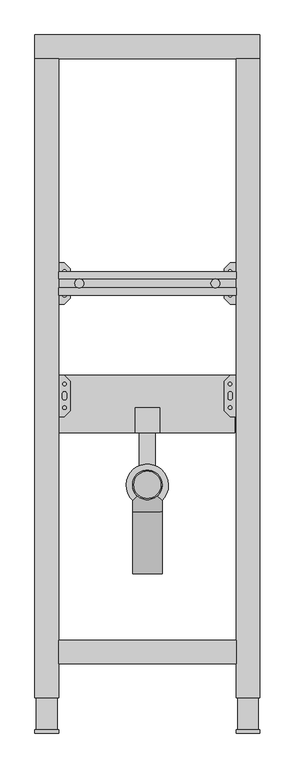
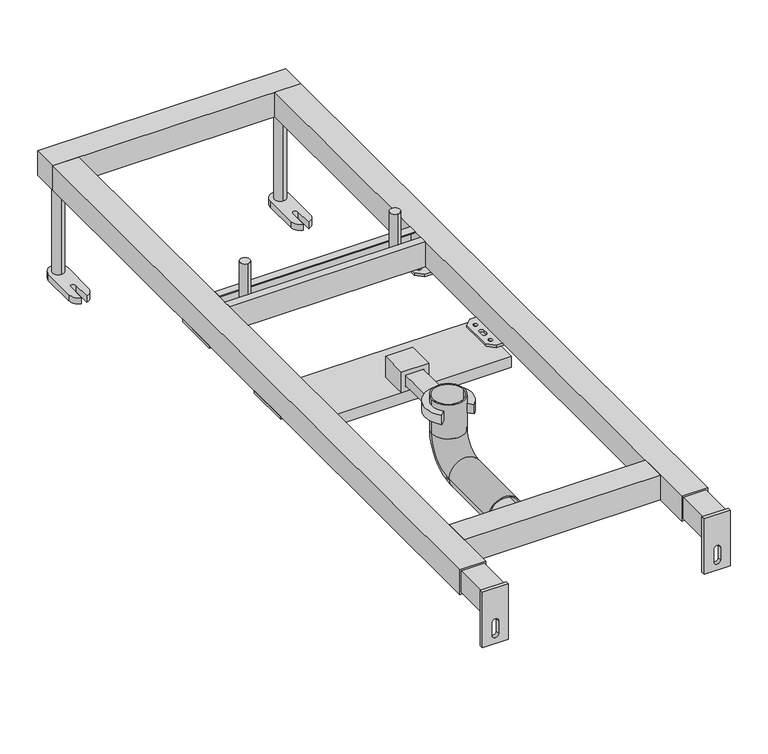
"""IFC4 building model written with IfcOpenShell, lengths in millimetres: sanitary terminal geometry, RSen_74_PF_FB_built-in element washbasin xs_wisa : xs washbasin_wisa_built in element for washbasin."""

import ifcopenshell
import ifcopenshell.guid

model = None  # the IFC model being written
_history = None  # IfcOwnerHistory: only IFC2X3 demands one
_inside = {}  # id of a spatial element -> (the spatial element, [elements in it])
_under = {}  # id of a project, library or spatial element -> (it, [spatial elements below it])
_declared = {}  # id of a project -> (the project, [libraries it declares])
_typed = {}  # id of a type object -> (the type object, [elements of that type])
_made_of = {}  # id of a material, layer set ... -> (it, [elements and type objects made of it])


def new_model(schema):
    """Start an empty IFC model of exactly this schema.

    Asked for "IFC4X3", IfcOpenShell would pick the latest addendum, in which some entities
    have other attributes; the version numbers below select the first issue.
    IFC2X3 requires an IfcOwnerHistory on every rooted entity: one is made here for all.
    """
    global model, _history
    if schema == "IFC4X3":
        model = ifcopenshell.file(schema_version=(4, 3, 0, 0))
    else:
        model = ifcopenshell.file(schema=schema)
    _inside.clear()
    _under.clear()
    _declared.clear()
    _typed.clear()
    _made_of.clear()
    _history = None
    if model.schema == "IFC2X3":
        org = make("IfcOrganization", Name="unknown")
        user = make(
            "IfcPersonAndOrganization",
            ThePerson=make("IfcPerson", FamilyName="unknown"),
            TheOrganization=org,
        )
        app = make(
            "IfcApplication",
            ApplicationDeveloper=org,
            Version="unknown",
            ApplicationFullName="unknown",
            ApplicationIdentifier="unknown",
        )
        _history = make(
            "IfcOwnerHistory",
            OwningUser=user,
            OwningApplication=app,
            ChangeAction="ADDED",
            CreationDate=0,
        )
    return model


def make(cls, **values):
    """One entity of the class cls with the attributes given. An attribute that is None is left unset."""
    return model.create_entity(
        cls, **{name: value for name, value in values.items() if value is not None}
    )


def rooted(cls, **values):
    """An entity with a GlobalId (a new one), such as an element, a storey or a relation."""
    return make(cls, GlobalId=ifcopenshell.guid.new(), OwnerHistory=_history, **values)


def si_unit(unit_type, name, prefix=None):
    """IfcSIUnit, for example si_unit("LENGTHUNIT", "METRE", prefix="MILLI")."""
    return make("IfcSIUnit", UnitType=unit_type, Prefix=prefix, Name=name)


def assignment(units):
    """IfcUnitAssignment: the units of a project."""
    return None if units is None else make("IfcUnitAssignment", Units=units)


def point(xyz):
    """IfcCartesianPoint."""
    return None if xyz is None else make("IfcCartesianPoint", Coordinates=xyz)


def direction(xyz):
    """IfcDirection."""
    return None if xyz is None else make("IfcDirection", DirectionRatios=xyz)


def frame(location, z_axis=None, x_axis=None):
    """IfcAxis2Placement3D, a coordinate frame: its origin and axes. An axis left out is left unset."""
    return make(
        "IfcAxis2Placement3D",
        Location=point(location),
        Axis=direction(z_axis),
        RefDirection=direction(x_axis),
    )


def frame_2d(location, x_axis=None):
    """IfcAxis2Placement2D, a coordinate frame in the plane: its origin and x axis."""
    return make(
        "IfcAxis2Placement2D", Location=point(location), RefDirection=direction(x_axis)
    )


def origin():
    """The frame at (0, 0, 0) with its axes left unset."""
    return frame((0.0, 0.0, 0.0))


def origin_with_axes():
    """The frame at (0, 0, 0) with the z axis (0, 0, 1) and the x axis (1, 0, 0) written out."""
    return frame((0.0, 0.0, 0.0), z_axis=(0.0, 0.0, 1.0), x_axis=(1.0, 0.0, 0.0))


def place(relative_to, where):
    """IfcLocalPlacement: puts the frame where relative to a parent placement (None: the world)."""
    return make(
        "IfcLocalPlacement", PlacementRelTo=relative_to, RelativePlacement=where
    )


def context(
    kind, dimensions, precision=None, world=None, true_north=None, identifier=None
):
    """IfcGeometricRepresentationContext, for example the 3D "Model" context."""
    return make(
        "IfcGeometricRepresentationContext",
        ContextIdentifier=identifier,
        ContextType=kind,
        CoordinateSpaceDimension=dimensions,
        Precision=precision,
        WorldCoordinateSystem=world,
        TrueNorth=true_north,
    )


def project(units=None, contexts=None):
    """IfcProject with its units and contexts."""
    return rooted(
        "IfcProject",
        Name="project",
        RepresentationContexts=contexts,
        UnitsInContext=assignment(units),
    )


def spatial(cls, under=None, at=None, **own):
    """A site, building, storey or space (cls), placed at a placement, below another one or the project."""
    s = rooted(cls, ObjectPlacement=at, **own)
    if under is not None:
        _under.setdefault(under.id(), (under, []))[1].append(s)
    return s


def polyline(points):
    """IfcPolyline through the points."""
    return make("IfcPolyline", Points=[point(p) for p in points])


def circle_curve(where, radius):
    """IfcCircle in the frame where."""
    return make("IfcCircle", Position=where, Radius=radius)


def ellipse_curve(where, semi_axis1, semi_axis2):
    """IfcEllipse in the frame where."""
    return make(
        "IfcEllipse", Position=where, SemiAxis1=semi_axis1, SemiAxis2=semi_axis2
    )


def trimmed(basis, trim1, trim2, sense, master):
    """IfcTrimmedCurve: the piece of a basis curve between two trims."""
    return make(
        "IfcTrimmedCurve",
        BasisCurve=basis,
        Trim1=trim1,
        Trim2=trim2,
        SenseAgreement=sense,
        MasterRepresentation=master,
    )


def segment(curve, same_sense, transition):
    """IfcCompositeCurveSegment."""
    return make(
        "IfcCompositeCurveSegment",
        Transition=transition,
        SameSense=same_sense,
        ParentCurve=curve,
    )


def composite_curve(segments, self_intersect=None):
    """IfcCompositeCurve: segments joined end to end."""
    return make("IfcCompositeCurve", Segments=segments, SelfIntersect=self_intersect)


def outline(outer, holes=None, kind="AREA"):
    """IfcArbitraryClosedProfileDef: a profile drawn as a closed curve; with holes, ...WithVoids."""
    if holes is None:
        return make("IfcArbitraryClosedProfileDef", ProfileType=kind, OuterCurve=outer)
    return make(
        "IfcArbitraryProfileDefWithVoids",
        ProfileType=kind,
        OuterCurve=outer,
        InnerCurves=holes,
    )


def extrude(swept, where, along, depth):
    """IfcExtrudedAreaSolid: the profile swept, set in the frame where, extruded along a direction by depth."""
    return make(
        "IfcExtrudedAreaSolid",
        SweptArea=swept,
        Position=where,
        ExtrudedDirection=direction(along),
        Depth=depth,
    )


def shape(context_of_items, identifier, shape_type, items):
    """IfcShapeRepresentation: the items that make up one representation, for example the "Body"."""
    return make(
        "IfcShapeRepresentation",
        ContextOfItems=context_of_items,
        RepresentationIdentifier=identifier,
        RepresentationType=shape_type,
        Items=items,
    )


def source(mapping_origin, context_of_items, identifier, shape_type, items):
    """IfcRepresentationMap: a shape defined once, which mapped items show again and again."""
    return make(
        "IfcRepresentationMap",
        MappingOrigin=mapping_origin,
        MappedRepresentation=shape(context_of_items, identifier, shape_type, items),
    )


def transform(
    local_origin,
    x_axis=None,
    y_axis=None,
    z_axis=None,
    scale=None,
    scale2=None,
    scale3=None,
    uniform=True,
):
    """IfcCartesianTransformationOperator3D, or its non-uniform kind. x_axis, y_axis, z_axis: its Axis1, 2, 3."""
    if uniform:
        return make(
            "IfcCartesianTransformationOperator3D",
            Axis1=direction(x_axis),
            Axis2=direction(y_axis),
            LocalOrigin=point(local_origin),
            Scale=scale,
            Axis3=direction(z_axis),
        )
    return make(
        "IfcCartesianTransformationOperator3DnonUniform",
        Axis1=direction(x_axis),
        Axis2=direction(y_axis),
        LocalOrigin=point(local_origin),
        Scale=scale,
        Axis3=direction(z_axis),
        Scale2=scale2,
        Scale3=scale3,
    )


def mapped(mapping_source, mapping_target):
    """IfcMappedItem: shows the shape of a source again, moved by a transform."""
    return make(
        "IfcMappedItem", MappingSource=mapping_source, MappingTarget=mapping_target
    )


def made_of(thing, what):
    """Note that an element or type object is made of a material, layer set ...; save() writes the relation."""
    if what is not None:
        _made_of.setdefault(what.id(), (what, []))[1].append(thing)
    return thing


def element(
    cls,
    number,
    at=None,
    inside=None,
    cuts=None,
    type_object=None,
    material=None,
    context=None,
    identifier="Body",
    shape_type=None,
    held_by="IfcProductDefinitionShape",
    body=None,
    shapes=None,
    **own,
):
    """One element of the class cls, such as IfcWall. Its Tag is "e" and its number.

    at: its placement. inside: the storey or other place that contains it. cuts: it is an
    opening in that element (IfcRelVoidsElement). A single representation is given by context,
    identifier, shape_type and body (its items); several are given by shapes. held_by: the class
    of the entity that holds the representations. save() writes the other relations.
    """
    e = rooted(cls, Tag="e%d" % number, ObjectPlacement=at, **own)
    if body is not None:
        shapes = [shape(context, identifier, shape_type, body)]
    if shapes is not None:
        e.Representation = make(held_by, Representations=shapes)
    if inside is not None:
        _inside.setdefault(inside.id(), (inside, []))[1].append(e)
    if cuts is not None:
        rooted(
            "IfcRelVoidsElement", RelatingBuildingElement=cuts, RelatedOpeningElement=e
        )
    if type_object is not None:
        _typed.setdefault(type_object.id(), (type_object, []))[1].append(e)
    return made_of(e, material)


def aggregate(whole, parts):
    """IfcRelAggregates: a whole, such as a stair, and the parts it consists of."""
    return rooted("IfcRelAggregates", RelatingObject=whole, RelatedObjects=parts)


def save(model, path):
    """Write the relations noted so far, then the file.

    IfcRelAggregates (storeys below a building ...), IfcRelContainedInSpatialStructure (elements
    in a storey), IfcRelDefinesByType, IfcRelAssociatesMaterial and IfcRelDeclares: one each for
    every whole, place, type object, material and project.
    """
    for whole, parts in _under.values():
        aggregate(whole, parts)
    for where, things in _inside.values():
        rooted(
            "IfcRelContainedInSpatialStructure",
            RelatedElements=things,
            RelatingStructure=where,
        )
    for kind, things in _typed.values():
        rooted("IfcRelDefinesByType", RelatedObjects=things, RelatingType=kind)
    for what, things in _made_of.values():
        rooted("IfcRelAssociatesMaterial", RelatedObjects=things, RelatingMaterial=what)
    for by, libraries in _declared.values():
        rooted("IfcRelDeclares", RelatingContext=by, RelatedDefinitions=libraries)
    model.write(path)


def plane_surface(at):
    """IfcPlane: the flat surface through the origin of the frame at, square to its z axis."""
    return make("IfcPlane", Position=at)


def cylinder_surface(at, radius):
    """IfcCylindricalSurface: all points at the distance radius from the z axis of the frame at."""
    return make("IfcCylindricalSurface", Position=at, Radius=radius)


def revolved_surface(curve, axis_point, axis_direction):
    """IfcSurfaceOfRevolution: the curve turned about the line through axis_point along axis_direction."""
    return make(
        "IfcSurfaceOfRevolution",
        SweptCurve=make("IfcArbitraryOpenProfileDef", ProfileType="CURVE", Curve=curve),
        AxisPosition=make("IfcAxis1Placement", Location=point(axis_point), Axis=direction(axis_direction)),
    )


def advanced_brep(points, edges, surfaces, faces):
    """IfcAdvancedBrep: a solid bounded by faces that lie on surfaces and meet in shared edges.

    An edge is (start, end): straight between two places in points (the first is 0);
    or (start, end, curve); or (start, end, curve, False) where it runs against its curve.
    A face is (place in surfaces, loops), or (place, loops, False) where it looks against
    its surface's normal. A loop lists edges by number (the first is 1), with a minus sign
    where the edge is run from its end to its start. The first loop is the outer one.
    """
    corners = [point(p) for p in points]
    vertices = [make("IfcVertexPoint", VertexGeometry=c) for c in corners]
    made = []
    for start, end, *more in edges:
        made.append(
            make(
                "IfcEdgeCurve",
                EdgeStart=vertices[start],
                EdgeEnd=vertices[end],
                EdgeGeometry=more[0] if more else make("IfcPolyline", Points=[corners[start], corners[end]]),
                SameSense=more[1] if len(more) > 1 else True,
            )
        )
    hull = []
    for where, loops, *sense in faces:
        bounds = []
        for j, loop in enumerate(loops):
            ring = [make("IfcOrientedEdge", EdgeElement=made[abs(k) - 1], Orientation=k > 0) for k in loop]
            bounds.append(
                make(
                    "IfcFaceOuterBound" if j == 0 else "IfcFaceBound",
                    Bound=make("IfcEdgeLoop", EdgeList=ring),
                    Orientation=True,
                )
            )
        hull.append(make("IfcAdvancedFace", Bounds=bounds, FaceSurface=surfaces[where], SameSense=sense[0] if sense else True))
    return make("IfcAdvancedBrep", Outer=make("IfcClosedShell", CfsFaces=hull))


def sanitary_terminal_f5f2133f(model_context):
    return source(origin(), model_context, "Body", "SolidModel", [
        extrude(outline(composite_curve([segment(polyline([(-17.8270587, 400.1688677), (-24.8992187, 393.0967077)]), True, "CONTINUOUS"), segment(trimmed(circle_curve(frame_2d((0.0, 418.75)), 35.75), [point((-24.8992187, 393.0967077))], [point((24.8992187, 393.0967077))], False, "CARTESIAN"), True, "CONTINUOUS"), segment(polyline([(24.8992187, 393.0967077), (17.8270587, 400.1688677)]), True, "CONTINUOUS"), segment(trimmed(circle_curve(frame_2d((0.0, 418.75)), 25.75), [point((17.8270587, 400.1688677))], [point((-17.8270587, 400.1688677))], True, "CARTESIAN"), True, "CONTINUOUS")], self_intersect=False)), frame((0.0, 0.0, 175.75), z_axis=(0.0, 0.0, 1.0), x_axis=(1.0, 0.0, 0.0)), (0.0, 0.0, 1.0), 15.0),
        extrude(outline(polyline([(-13.3214827, 550.0), (13.6785173, 550.0), (13.6785173, 445.8), (-13.3214827, 445.8), (-13.3214827, 550.0)])), frame((0.0, 0.0, 164.75), z_axis=(0.0, 0.0, 1.0), x_axis=(1.0, 0.0, 0.0)), (0.0, 0.0, 1.0), 16.0),
        extrude(outline(polyline([(189.5, 20.9285173), (189.5, -20.5714827), (156.0, -20.5714827), (156.0, 20.9285173), (189.5, 20.9285173)]), holes=[polyline([(182.0, 13.75), (163.5, 13.75), (163.5, -13.75), (182.0, -13.75), (182.0, 13.75)])]), frame((0.0, 508.0, 0.0), z_axis=(0.0, 1.0, 0.0), x_axis=(0.0, 0.0, 1.0)), (0.0, 0.0, 1.0), 42.0),
        extrude(outline(polyline([(148.0, 508.0), (-150.0, 508.0), (-150.0, 605.0), (148.0, 605.0), (148.0, 508.0)])), frame((0.0, 0.0, 138.0), z_axis=(0.0, 0.0, 1.0), x_axis=(1.0, 0.0, 0.0)), (0.0, 0.0, 1.0), 18.0),
        advanced_brep(
        [(-25.0, 419.5, 200.0), (25.0, 419.5, 200.0), (-23.0, 419.5, 200.0), (23.0, 419.5, 200.0), (-25.0, 419.5, 145.0), (25.0, 419.5, 145.0), (25.0, 374.5, 100.0), (-25.0, 374.5, 100.0), (-25.0, 269.5, 100.0), (25.0, 269.5, 100.0), (-23.0, 269.5, 100.0), (23.0, 269.5, 100.0), (-23.0, 419.5, 145.0), (23.0, 419.5, 145.0), (23.0, 374.5, 100.0), (-23.0, 374.5, 100.0)],
        [
            (0, 1, circle_curve(frame((0.0, 419.5, 200.0), z_axis=(0.0, 0.0, 1.0), x_axis=(1.0, 0.0, 0.0)), 25.0)),
            (1, 0, circle_curve(frame((0.0, 419.5, 200.0), z_axis=(0.0, 0.0, 1.0), x_axis=(1.0, 0.0, 0.0)), 25.0)),
            (2, 3, circle_curve(frame((0.0, 419.5, 200.0), z_axis=(0.0, 0.0, -1.0), x_axis=(1.0, 0.0, 0.0)), 23.0)),
            (3, 2, circle_curve(frame((0.0, 419.5, 200.0), z_axis=(0.0, 0.0, -1.0), x_axis=(1.0, 0.0, 0.0)), 23.0)),
            (0, 4),
            (4, 5, circle_curve(frame((0.0, 419.5, 145.0), z_axis=(0.0, 0.0, 1.0), x_axis=(1.0, 0.0, 0.0)), 25.0)),
            (5, 1),
            (5, 4, circle_curve(frame((0.0, 419.5, 145.0), z_axis=(0.0, 0.0, 1.0), x_axis=(1.0, 0.0, 0.0)), 25.0)),
            (6, 5, circle_curve(frame((25.0, 374.5, 145.0), z_axis=(1.0, 0.0, 0.0), x_axis=(0.0, 1.0, 0.0)), 45.0)),
            (4, 7, circle_curve(frame((-25.0, 374.5, 145.0), z_axis=(-1.0, 0.0, 0.0), x_axis=(0.0, 1.0, 0.0)), 45.0)),
            (7, 6, circle_curve(frame((0.0, 374.5, 100.0), z_axis=(0.0, 1.0, 0.0), x_axis=(1.0, 0.0, 0.0)), 25.0)),
            (6, 7, circle_curve(frame((0.0, 374.5, 100.0), z_axis=(0.0, 1.0, 0.0), x_axis=(1.0, 0.0, 0.0)), 25.0)),
            (8, 9, circle_curve(frame((0.0, 269.5, 100.0), z_axis=(0.0, -1.0, 0.0), x_axis=(1.0, 0.0, 0.0)), 25.0)),
            (9, 8, circle_curve(frame((0.0, 269.5, 100.0), z_axis=(0.0, -1.0, 0.0), x_axis=(1.0, 0.0, 0.0)), 25.0)),
            (10, 11, circle_curve(frame((0.0, 269.5, 100.0), z_axis=(0.0, 1.0, 0.0), x_axis=(1.0, 0.0, 0.0)), 23.0)),
            (11, 10, circle_curve(frame((0.0, 269.5, 100.0), z_axis=(0.0, 1.0, 0.0), x_axis=(1.0, 0.0, 0.0)), 23.0)),
            (7, 8),
            (9, 6),
            (2, 12),
            (12, 13, circle_curve(frame((0.0, 419.5, 145.0), z_axis=(0.0, 0.0, -1.0), x_axis=(1.0, 0.0, 0.0)), 23.0)),
            (13, 3),
            (13, 12, circle_curve(frame((0.0, 419.5, 145.0), z_axis=(0.0, 0.0, -1.0), x_axis=(1.0, 0.0, 0.0)), 23.0)),
            (14, 13, circle_curve(frame((23.0, 374.5, 145.0), z_axis=(1.0, 0.0, 0.0), x_axis=(0.0, 1.0, 0.0)), 45.0)),
            (12, 15, circle_curve(frame((-23.0, 374.5, 145.0), z_axis=(-1.0, 0.0, 0.0), x_axis=(0.0, 1.0, 0.0)), 45.0)),
            (15, 14, circle_curve(frame((0.0, 374.5, 100.0), z_axis=(0.0, -1.0, 0.0), x_axis=(1.0, 0.0, 0.0)), 23.0)),
            (14, 15, circle_curve(frame((0.0, 374.5, 100.0), z_axis=(0.0, -1.0, 0.0), x_axis=(1.0, 0.0, 0.0)), 23.0)),
            (15, 10),
            (11, 14),
        ],
        [
            plane_surface(frame((0.0, 419.5, 200.0), z_axis=(0.0, 0.0, 1.0), x_axis=(1.0, 0.0, 0.0))),
            cylinder_surface(frame((0.0, 419.5, 200.0), z_axis=(0.0, 0.0, 1.0), x_axis=(1.0, 0.0, 0.0)), 25.0),
            revolved_surface(trimmed(ellipse_curve(frame((0.0, 419.5, 145.0), z_axis=(0.0, 0.0, 1.0), x_axis=(1.0, 0.0, 0.0)), 25.0, 25.0), [point((-25.0, 419.5, 145.0))], [point((25.0, 419.5, 145.0))], True, "CARTESIAN"), (0.0, 374.5, 145.0), (-1.0, 0.0, 0.0)),
            revolved_surface(trimmed(ellipse_curve(frame((0.0, 419.5, 145.0), z_axis=(0.0, 0.0, 1.0), x_axis=(1.0, 0.0, 0.0)), 25.0, 25.0), [point((25.0, 419.5, 145.0))], [point((-25.0, 419.5, 145.0))], True, "CARTESIAN"), (0.0, 374.5, 145.0), (-1.0, 0.0, 0.0)),
            plane_surface(frame((0.0, 269.5, 100.0), z_axis=(0.0, -1.0, 0.0), x_axis=(1.0, 0.0, 0.0))),
            cylinder_surface(frame((0.0, 374.5, 100.0), z_axis=(0.0, 1.0, 0.0), x_axis=(1.0, 0.0, 0.0)), 25.0),
            revolved_surface(polyline([(23.0, 419.5, 145.0), (23.0, 419.5, 200.0)]), (0.0, 419.5, 200.0), (0.0, 0.0, -1.0)),
            revolved_surface(trimmed(ellipse_curve(frame((0.0, 419.5, 145.0), z_axis=(0.0, 0.0, -1.0), x_axis=(1.0, 0.0, 0.0)), 23.0, 23.0), [point((-23.0, 419.5, 145.0))], [point((23.0, 419.5, 145.0))], True, "CARTESIAN"), (0.0, 374.5, 145.0), (-1.0, 0.0, 0.0)),
            revolved_surface(trimmed(ellipse_curve(frame((0.0, 419.5, 145.0), z_axis=(0.0, 0.0, -1.0), x_axis=(1.0, 0.0, 0.0)), 23.0, 23.0), [point((23.0, 419.5, 145.0))], [point((-23.0, 419.5, 145.0))], True, "CARTESIAN"), (0.0, 374.5, 145.0), (-1.0, 0.0, 0.0)),
            revolved_surface(polyline([(23.0, 269.5, 100.0), (23.0, 374.5, 100.0)]), (0.0, 374.5, 100.0), (0.0, -1.0, 0.0)),
        ],
        [
            (0, [[1, 2], [3, 4]]),
            (1, [[-1, 5, 6, 7]]),
            (1, [[-2, -7, 8, -5]]),
            (2, [[9, -6, 10, 11]]),
            (3, [[-10, -8, -9, 12]]),
            (4, [[13, 14], [15, 16]]),
            (5, [[-11, 17, -14, 18]]),
            (5, [[-12, -18, -13, -17]]),
            (6, [[-3, 19, 20, 21]]),
            (6, [[-4, -21, 22, -19]]),
            (7, [[23, -20, 24, 25]]),
            (8, [[-24, -22, -23, 26]]),
            (9, [[-25, 27, -16, 28]]),
            (9, [[-26, -28, -15, -27]]),
        ],
    ),
        extrude(outline(composite_curve([segment(trimmed(circle_curve(frame_2d((-115.0, 760.0)), 7.5154833), [point((-115.0, 767.5154833))], [point((-115.0, 752.4845167))], False, "CARTESIAN"), True, "CONTINUOUS"), segment(trimmed(circle_curve(frame_2d((-115.0, 760.0)), 7.5154833), [point((-115.0, 752.4845167))], [point((-115.0, 767.5154833))], False, "CARTESIAN"), True, "CONTINUOUS")], self_intersect=False)), frame((0.0, 0.0, 180.0), z_axis=(0.0, 0.0, 1.0), x_axis=(1.0, 0.0, 0.0)), (0.0, 0.0, 1.0), 70.0),
        extrude(outline(composite_curve([segment(trimmed(circle_curve(frame_2d((115.0, 760.0)), 7.5154833), [point((115.0, 767.5154833))], [point((115.0, 752.4845167))], False, "CARTESIAN"), True, "CONTINUOUS"), segment(trimmed(circle_curve(frame_2d((115.0, 760.0)), 7.5154833), [point((115.0, 752.4845167))], [point((115.0, 767.5154833))], False, "CARTESIAN"), True, "CONTINUOUS")], self_intersect=False)), frame((0.0, 0.0, 180.0), z_axis=(0.0, 0.0, 1.0), x_axis=(1.0, 0.0, 0.0)), (0.0, 0.0, 1.0), 70.0),
        extrude(outline(polyline([(740.0, 200.0), (752.4845167, 200.0), (752.4845167, 198.5), (741.5, 198.5), (741.5, 161.5), (778.5, 161.5), (778.5, 198.5), (767.5154833, 198.5), (767.5154833, 200.0), (780.0, 200.0), (780.0, 160.0), (740.0, 160.0), (740.0, 200.0)])), frame((-150.0, 0.0, 0.0), z_axis=(1.0, 0.0, 0.0), x_axis=(0.0, 1.0, 0.0)), (0.0, 0.0, 1.0), 300.0),
        extrude(outline(polyline([(140.0, 725.0), (130.0, 735.0), (130.0, 785.0), (140.0, 795.0), (190.0, 795.0), (190.0, 725.0), (140.0, 725.0)]), holes=[composite_curve([segment(trimmed(circle_curve(frame_2d((175.0, 760.0)), 4.5), [point((175.0, 755.5))], [point((175.0, 764.5))], True, "CARTESIAN"), True, "CONTINUOUS"), segment(trimmed(circle_curve(frame_2d((175.0, 760.0)), 4.5), [point((175.0, 764.5))], [point((175.0, 755.5))], True, "CARTESIAN"), True, "CONTINUOUS")], self_intersect=False), composite_curve([segment(trimmed(circle_curve(frame_2d((175.0, 780.0)), 4.5), [point((175.0, 775.5))], [point((175.0, 784.5))], True, "CARTESIAN"), True, "CONTINUOUS"), segment(trimmed(circle_curve(frame_2d((175.0, 780.0)), 4.5), [point((175.0, 784.5))], [point((175.0, 775.5))], True, "CARTESIAN"), True, "CONTINUOUS")], self_intersect=False), composite_curve([segment(trimmed(circle_curve(frame_2d((175.0, 740.0)), 4.5), [point((175.0, 735.5))], [point((175.0, 744.5))], True, "CARTESIAN"), True, "CONTINUOUS"), segment(trimmed(circle_curve(frame_2d((175.0, 740.0)), 4.5), [point((175.0, 744.5))], [point((175.0, 735.5))], True, "CARTESIAN"), True, "CONTINUOUS")], self_intersect=False), composite_curve([segment(trimmed(circle_curve(frame_2d((140.0, 780.0)), 2.9795218), [point((140.0, 777.0204782))], [point((140.0, 782.9795218))], True, "CARTESIAN"), True, "CONTINUOUS"), segment(trimmed(circle_curve(frame_2d((140.0, 780.0)), 2.9795218), [point((140.0, 782.9795218))], [point((140.0, 777.0204782))], True, "CARTESIAN"), True, "CONTINUOUS")], self_intersect=False), composite_curve([segment(trimmed(circle_curve(frame_2d((140.0, 740.0)), 2.9795218), [point((140.0, 737.0204782))], [point((140.0, 742.9795218))], True, "CARTESIAN"), True, "CONTINUOUS"), segment(trimmed(circle_curve(frame_2d((140.0, 740.0)), 2.9795218), [point((140.0, 742.9795218))], [point((140.0, 737.0204782))], True, "CARTESIAN"), True, "CONTINUOUS")], self_intersect=False), composite_curve([segment(trimmed(circle_curve(frame_2d((140.0, 763.5)), 3.5), [point((143.5, 763.5))], [point((136.5, 763.5))], True, "CARTESIAN"), True, "CONTINUOUS"), segment(polyline([(136.5, 763.5), (136.5, 756.5)]), True, "CONTINUOUS"), segment(trimmed(circle_curve(frame_2d((140.0, 756.5)), 3.5), [point((136.5, 756.5))], [point((143.5, 756.5))], True, "CARTESIAN"), True, "CONTINUOUS"), segment(polyline([(143.5, 756.5), (143.5, 763.5)]), True, "CONTINUOUS")], self_intersect=False)]), frame((0.0, 0.0, 156.0), z_axis=(0.0, 0.0, 1.0), x_axis=(1.0, 0.0, 0.0)), (0.0, 0.0, 1.0), 4.0),
        extrude(outline(polyline([(-140.0, 725.0), (-190.0, 725.0), (-190.0, 795.0), (-140.0, 795.0), (-130.0, 785.0), (-130.0, 735.0), (-140.0, 725.0)]), holes=[composite_curve([segment(trimmed(circle_curve(frame_2d((-175.0, 760.0)), 4.5), [point((-175.0, 755.5))], [point((-175.0, 764.5))], True, "CARTESIAN"), True, "CONTINUOUS"), segment(trimmed(circle_curve(frame_2d((-175.0, 760.0)), 4.5), [point((-175.0, 764.5))], [point((-175.0, 755.5))], True, "CARTESIAN"), True, "CONTINUOUS")], self_intersect=False), composite_curve([segment(trimmed(circle_curve(frame_2d((-175.0, 780.0)), 4.5), [point((-175.0, 775.5))], [point((-175.0, 784.5))], True, "CARTESIAN"), True, "CONTINUOUS"), segment(trimmed(circle_curve(frame_2d((-175.0, 780.0)), 4.5), [point((-175.0, 784.5))], [point((-175.0, 775.5))], True, "CARTESIAN"), True, "CONTINUOUS")], self_intersect=False), composite_curve([segment(trimmed(circle_curve(frame_2d((-175.0, 740.0)), 4.5), [point((-175.0, 735.5))], [point((-175.0, 744.5))], True, "CARTESIAN"), True, "CONTINUOUS"), segment(trimmed(circle_curve(frame_2d((-175.0, 740.0)), 4.5), [point((-175.0, 744.5))], [point((-175.0, 735.5))], True, "CARTESIAN"), True, "CONTINUOUS")], self_intersect=False), composite_curve([segment(trimmed(circle_curve(frame_2d((-140.0, 780.0)), 2.9795218), [point((-140.0, 777.0204782))], [point((-140.0, 782.9795218))], True, "CARTESIAN"), True, "CONTINUOUS"), segment(trimmed(circle_curve(frame_2d((-140.0, 780.0)), 2.9795218), [point((-140.0, 782.9795218))], [point((-140.0, 777.0204782))], True, "CARTESIAN"), True, "CONTINUOUS")], self_intersect=False), composite_curve([segment(trimmed(circle_curve(frame_2d((-140.0, 740.0)), 2.9795218), [point((-140.0, 737.0204782))], [point((-140.0, 742.9795218))], True, "CARTESIAN"), True, "CONTINUOUS"), segment(trimmed(circle_curve(frame_2d((-140.0, 740.0)), 2.9795218), [point((-140.0, 742.9795218))], [point((-140.0, 737.0204782))], True, "CARTESIAN"), True, "CONTINUOUS")], self_intersect=False), composite_curve([segment(polyline([(-143.5, 763.5), (-143.5, 756.5)]), True, "CONTINUOUS"), segment(trimmed(circle_curve(frame_2d((-140.0, 756.5)), 3.5), [point((-143.5, 756.5))], [point((-136.5, 756.5))], True, "CARTESIAN"), True, "CONTINUOUS"), segment(polyline([(-136.5, 756.5), (-136.5, 763.5)]), True, "CONTINUOUS"), segment(trimmed(circle_curve(frame_2d((-140.0, 763.5)), 3.5), [point((-136.5, 763.5))], [point((-143.5, 763.5))], True, "CARTESIAN"), True, "CONTINUOUS")], self_intersect=False)]), frame((0.0, 0.0, 156.0), z_axis=(0.0, 0.0, 1.0), x_axis=(1.0, 0.0, 0.0)), (0.0, 0.0, 1.0), 4.0),
        extrude(outline(polyline([(140.0, 535.0), (130.0, 545.0), (130.0, 595.0), (140.0, 605.0), (190.0, 605.0), (190.0, 535.0), (140.0, 535.0)]), holes=[composite_curve([segment(trimmed(circle_curve(frame_2d((175.0, 570.0)), 4.5), [point((175.0, 565.5))], [point((175.0, 574.5))], True, "CARTESIAN"), True, "CONTINUOUS"), segment(trimmed(circle_curve(frame_2d((175.0, 570.0)), 4.5), [point((175.0, 574.5))], [point((175.0, 565.5))], True, "CARTESIAN"), True, "CONTINUOUS")], self_intersect=False), composite_curve([segment(trimmed(circle_curve(frame_2d((175.0, 590.0)), 4.5), [point((175.0, 585.5))], [point((175.0, 594.5))], True, "CARTESIAN"), True, "CONTINUOUS"), segment(trimmed(circle_curve(frame_2d((175.0, 590.0)), 4.5), [point((175.0, 594.5))], [point((175.0, 585.5))], True, "CARTESIAN"), True, "CONTINUOUS")], self_intersect=False), composite_curve([segment(trimmed(circle_curve(frame_2d((175.0, 550.0)), 4.5), [point((175.0, 545.5))], [point((175.0, 554.5))], True, "CARTESIAN"), True, "CONTINUOUS"), segment(trimmed(circle_curve(frame_2d((175.0, 550.0)), 4.5), [point((175.0, 554.5))], [point((175.0, 545.5))], True, "CARTESIAN"), True, "CONTINUOUS")], self_intersect=False), composite_curve([segment(trimmed(circle_curve(frame_2d((140.0, 590.0)), 2.9795218), [point((140.0, 587.0204782))], [point((140.0, 592.9795218))], True, "CARTESIAN"), True, "CONTINUOUS"), segment(trimmed(circle_curve(frame_2d((140.0, 590.0)), 2.9795218), [point((140.0, 592.9795218))], [point((140.0, 587.0204782))], True, "CARTESIAN"), True, "CONTINUOUS")], self_intersect=False), composite_curve([segment(trimmed(circle_curve(frame_2d((140.0, 550.0)), 2.9795218), [point((140.0, 547.0204782))], [point((140.0, 552.9795218))], True, "CARTESIAN"), True, "CONTINUOUS"), segment(trimmed(circle_curve(frame_2d((140.0, 550.0)), 2.9795218), [point((140.0, 552.9795218))], [point((140.0, 547.0204782))], True, "CARTESIAN"), True, "CONTINUOUS")], self_intersect=False), composite_curve([segment(trimmed(circle_curve(frame_2d((140.0, 573.5)), 3.5), [point((143.5, 573.5))], [point((136.5, 573.5))], True, "CARTESIAN"), True, "CONTINUOUS"), segment(polyline([(136.5, 573.5), (136.5, 566.5)]), True, "CONTINUOUS"), segment(trimmed(circle_curve(frame_2d((140.0, 566.5)), 3.5), [point((136.5, 566.5))], [point((143.5, 566.5))], True, "CARTESIAN"), True, "CONTINUOUS"), segment(polyline([(143.5, 566.5), (143.5, 573.5)]), True, "CONTINUOUS")], self_intersect=False)]), frame((0.0, 0.0, 156.0), z_axis=(0.0, 0.0, 1.0), x_axis=(1.0, 0.0, 0.0)), (0.0, 0.0, 1.0), 4.0),
        extrude(outline(polyline([(-140.0, 535.0), (-190.0, 535.0), (-190.0, 605.0), (-140.0, 605.0), (-130.0, 595.0), (-130.0, 545.0), (-140.0, 535.0)]), holes=[composite_curve([segment(trimmed(circle_curve(frame_2d((-175.0, 570.0)), 4.5), [point((-175.0, 565.5))], [point((-175.0, 574.5))], True, "CARTESIAN"), True, "CONTINUOUS"), segment(trimmed(circle_curve(frame_2d((-175.0, 570.0)), 4.5), [point((-175.0, 574.5))], [point((-175.0, 565.5))], True, "CARTESIAN"), True, "CONTINUOUS")], self_intersect=False), composite_curve([segment(trimmed(circle_curve(frame_2d((-175.0, 590.0)), 4.5), [point((-175.0, 585.5))], [point((-175.0, 594.5))], True, "CARTESIAN"), True, "CONTINUOUS"), segment(trimmed(circle_curve(frame_2d((-175.0, 590.0)), 4.5), [point((-175.0, 594.5))], [point((-175.0, 585.5))], True, "CARTESIAN"), True, "CONTINUOUS")], self_intersect=False), composite_curve([segment(trimmed(circle_curve(frame_2d((-175.0, 550.0)), 4.5), [point((-175.0, 545.5))], [point((-175.0, 554.5))], True, "CARTESIAN"), True, "CONTINUOUS"), segment(trimmed(circle_curve(frame_2d((-175.0, 550.0)), 4.5), [point((-175.0, 554.5))], [point((-175.0, 545.5))], True, "CARTESIAN"), True, "CONTINUOUS")], self_intersect=False), composite_curve([segment(trimmed(circle_curve(frame_2d((-140.0, 590.0)), 2.9795218), [point((-140.0, 587.0204782))], [point((-140.0, 592.9795218))], True, "CARTESIAN"), True, "CONTINUOUS"), segment(trimmed(circle_curve(frame_2d((-140.0, 590.0)), 2.9795218), [point((-140.0, 592.9795218))], [point((-140.0, 587.0204782))], True, "CARTESIAN"), True, "CONTINUOUS")], self_intersect=False), composite_curve([segment(trimmed(circle_curve(frame_2d((-140.0, 550.0)), 2.9795218), [point((-140.0, 547.0204782))], [point((-140.0, 552.9795218))], True, "CARTESIAN"), True, "CONTINUOUS"), segment(trimmed(circle_curve(frame_2d((-140.0, 550.0)), 2.9795218), [point((-140.0, 552.9795218))], [point((-140.0, 547.0204782))], True, "CARTESIAN"), True, "CONTINUOUS")], self_intersect=False), composite_curve([segment(polyline([(-143.5, 573.5), (-143.5, 566.5)]), True, "CONTINUOUS"), segment(trimmed(circle_curve(frame_2d((-140.0, 566.5)), 3.5), [point((-143.5, 566.5))], [point((-136.5, 566.5))], True, "CARTESIAN"), True, "CONTINUOUS"), segment(polyline([(-136.5, 566.5), (-136.5, 573.5)]), True, "CONTINUOUS"), segment(trimmed(circle_curve(frame_2d((-140.0, 573.5)), 3.5), [point((-136.5, 573.5))], [point((-143.5, 573.5))], True, "CARTESIAN"), True, "CONTINUOUS")], self_intersect=False)]), frame((0.0, 0.0, 156.0), z_axis=(0.0, 0.0, 1.0), x_axis=(1.0, 0.0, 0.0)), (0.0, 0.0, 1.0), 4.0),
        extrude(outline(composite_curve([segment(trimmed(circle_curve(frame_2d((-170.0, 1160.0)), 8.75), [point((-170.0, 1151.25))], [point((-170.0, 1168.75))], False, "CARTESIAN"), True, "CONTINUOUS"), segment(trimmed(circle_curve(frame_2d((-170.0, 1160.0)), 8.75), [point((-170.0, 1168.75))], [point((-170.0, 1151.25))], False, "CARTESIAN"), True, "CONTINUOUS")], self_intersect=False)), frame((0.0, 0.0, 10.0), z_axis=(0.0, 0.0, 1.0), x_axis=(1.0, 0.0, 0.0)), (0.0, 0.0, 1.0), 150.0),
        extrude(outline(composite_curve([segment(trimmed(circle_curve(frame_2d((170.0, 1160.0)), 8.75), [point((170.0, 1151.25))], [point((170.0, 1168.75))], False, "CARTESIAN"), True, "CONTINUOUS"), segment(trimmed(circle_curve(frame_2d((170.0, 1160.0)), 8.75), [point((170.0, 1168.75))], [point((170.0, 1151.25))], False, "CARTESIAN"), True, "CONTINUOUS")], self_intersect=False)), frame((0.0, 0.0, 10.0), z_axis=(0.0, 0.0, 1.0), x_axis=(1.0, 0.0, 0.0)), (0.0, 0.0, 1.0), 150.0),
        extrude(outline(composite_curve([segment(trimmed(circle_curve(frame_2d((-170.0, 1160.0)), 15.0), [point((-185.0, 1160.0))], [point((-155.0, 1160.0))], False, "CARTESIAN"), True, "CONTINUOUS"), segment(polyline([(-155.0, 1160.0), (-155.0, 1106.0)]), True, "CONTINUOUS"), segment(trimmed(circle_curve(frame_2d((-170.0, 1106.0)), 15.0), [point((-155.0, 1106.0))], [point((-166.0, 1091.5431677))], False, "CARTESIAN"), True, "CONTINUOUS"), segment(polyline([(-166.0, 1091.5431677), (-166.0, 1120.4568323)]), True, "CONTINUOUS"), segment(trimmed(circle_curve(frame_2d((-170.0, 1120.4568323)), 4.0), [point((-166.0, 1120.4568323))], [point((-174.0, 1120.4568323))], True, "CARTESIAN"), True, "CONTINUOUS"), segment(polyline([(-174.0, 1120.4568323), (-174.0, 1091.5431677)]), True, "CONTINUOUS"), segment(trimmed(circle_curve(frame_2d((-170.0, 1106.0)), 15.0), [point((-174.0, 1091.5431677))], [point((-185.0, 1106.0))], False, "CARTESIAN"), True, "CONTINUOUS"), segment(polyline([(-185.0, 1106.0), (-185.0, 1160.0)]), True, "CONTINUOUS")], self_intersect=False)), origin_with_axes(), (0.0, 0.0, 1.0), 10.0),
        extrude(outline(composite_curve([segment(polyline([(185.0, 1160.0), (185.0, 1106.0)]), True, "CONTINUOUS"), segment(trimmed(circle_curve(frame_2d((170.0, 1106.0)), 15.0), [point((185.0, 1106.0))], [point((174.0, 1091.5431677))], False, "CARTESIAN"), True, "CONTINUOUS"), segment(polyline([(174.0, 1091.5431677), (174.0, 1120.4568323)]), True, "CONTINUOUS"), segment(trimmed(circle_curve(frame_2d((170.0, 1120.4568323)), 4.0), [point((174.0, 1120.4568323))], [point((166.0, 1120.4568323))], True, "CARTESIAN"), True, "CONTINUOUS"), segment(polyline([(166.0, 1120.4568323), (166.0, 1091.5431677)]), True, "CONTINUOUS"), segment(trimmed(circle_curve(frame_2d((170.0, 1106.0)), 15.0), [point((166.0, 1091.5431677))], [point((155.0, 1106.0))], False, "CARTESIAN"), True, "CONTINUOUS"), segment(polyline([(155.0, 1106.0), (155.0, 1160.0)]), True, "CONTINUOUS"), segment(trimmed(circle_curve(frame_2d((170.0, 1160.0)), 15.0), [point((155.0, 1160.0))], [point((185.0, 1160.0))], False, "CARTESIAN"), True, "CONTINUOUS")], self_intersect=False)), origin_with_axes(), (0.0, 0.0, 1.0), 10.0),
        extrude(outline(polyline([(-187.5, 549.0), (-152.5, 549.0), (-152.5, 6.0), (-187.5, 6.0), (-187.5, 549.0)])), frame((0.0, 0.0, 162.5), z_axis=(0.0, 0.0, 1.0), x_axis=(1.0, 0.0, 0.0)), (0.0, 0.0, 1.0), 35.0),
        extrude(outline(polyline([(152.4841074, 549.0), (187.4841074, 549.0), (187.4841074, 6.0), (152.4841074, 6.0), (152.4841074, 549.0)])), frame((0.0, 0.0, 162.5), z_axis=(0.0, 0.0, 1.0), x_axis=(1.0, 0.0, 0.0)), (0.0, 0.0, 1.0), 35.0),
        extrude(outline(polyline([(200.0, 190.0), (200.0, 150.0), (110.0, 150.0), (110.0, 190.0), (200.0, 190.0)]), holes=[composite_curve([segment(trimmed(circle_curve(frame_2d((145.0, 170.0)), 5.0), [point((145.0, 165.0))], [point((145.0, 175.0))], True, "CARTESIAN"), True, "CONTINUOUS"), segment(polyline([(145.0, 175.0), (125.0, 175.0)]), True, "CONTINUOUS"), segment(trimmed(circle_curve(frame_2d((125.0, 170.0)), 5.0), [point((125.0, 175.0))], [point((125.0, 165.0))], True, "CARTESIAN"), True, "CONTINUOUS"), segment(polyline([(125.0, 165.0), (145.0, 165.0)]), True, "CONTINUOUS")], self_intersect=False)]), frame((0.0, 0.0, 0.0), z_axis=(0.0, 1.0, 0.0), x_axis=(0.0, 0.0, 1.0)), (0.0, 0.0, 1.0), 6.0),
        extrude(outline(polyline([(200.0, -150.0), (200.0, -190.0), (110.0, -190.0), (110.0, -150.0), (200.0, -150.0)]), holes=[composite_curve([segment(trimmed(circle_curve(frame_2d((145.0, -170.0)), 5.0), [point((145.0, -175.0))], [point((145.0, -165.0))], True, "CARTESIAN"), True, "CONTINUOUS"), segment(polyline([(145.0, -165.0), (125.0, -165.0)]), True, "CONTINUOUS"), segment(trimmed(circle_curve(frame_2d((125.0, -170.0)), 5.0), [point((125.0, -165.0))], [point((125.0, -175.0))], True, "CARTESIAN"), True, "CONTINUOUS"), segment(polyline([(125.0, -175.0), (145.0, -175.0)]), True, "CONTINUOUS")], self_intersect=False)]), frame((0.0, 0.0, 0.0), z_axis=(0.0, 1.0, 0.0), x_axis=(0.0, 0.0, 1.0)), (0.0, 0.0, 1.0), 6.0),
        extrude(outline(polyline([(150.0, 157.0), (150.0, 117.0), (-150.0, 117.0), (-150.0, 157.0), (150.0, 157.0)])), frame((0.0, 0.0, 160.0), z_axis=(0.0, 0.0, 1.0), x_axis=(1.0, 0.0, 0.0)), (0.0, 0.0, 1.0), 40.0),
        extrude(outline(polyline([(-150.0, 60.0), (-190.0, 60.0), (-190.0, 1140.0), (-150.0, 1140.0), (-150.0, 60.0)])), frame((0.0, 0.0, 160.0), z_axis=(0.0, 0.0, 1.0), x_axis=(1.0, 0.0, 0.0)), (0.0, 0.0, 1.0), 40.0),
        extrude(outline(polyline([(190.0, 60.0), (150.0, 60.0), (150.0, 1140.0), (190.0, 1140.0), (190.0, 60.0)])), frame((0.0, 0.0, 160.0), z_axis=(0.0, 0.0, 1.0), x_axis=(1.0, 0.0, 0.0)), (0.0, 0.0, 1.0), 40.0),
        extrude(outline(polyline([(190.0, 1180.0), (190.0, 1140.0), (-190.0, 1140.0), (-190.0, 1180.0), (190.0, 1180.0)])), frame((0.0, 0.0, 160.0), z_axis=(0.0, 0.0, 1.0), x_axis=(1.0, 0.0, 0.0)), (0.0, 0.0, 1.0), 40.0),
    ])


if __name__ == "__main__":
    model = new_model("IFC4")
    model_context = context("Model", 3, world=origin())
    ifc_project = project(units=[si_unit("LENGTHUNIT", "METRE", prefix="MILLI")], contexts=[model_context])
    site = spatial("IfcSite", under=ifc_project)
    building = spatial("IfcBuilding", under=site)
    placement = place(None, origin())
    sanitary_terminal_shape = sanitary_terminal_f5f2133f(model_context)
    element("IfcSanitaryTerminal", 1, ObjectType="RSen_74_PF_FB_built-in element washbasin xs_wisa : xs washbasin_wisa_built in element for washbasin", at=placement, inside=building, context=model_context, shape_type="MappedRepresentation", body=[
        mapped(sanitary_terminal_shape, transform((0.0, 0.0, 0.0), x_axis=(1.0, 0.0, 0.0), y_axis=(0.0, 1.0, 0.0), z_axis=(0.0, 0.0, 1.0))),
    ])
    save(model, "model.ifc")
